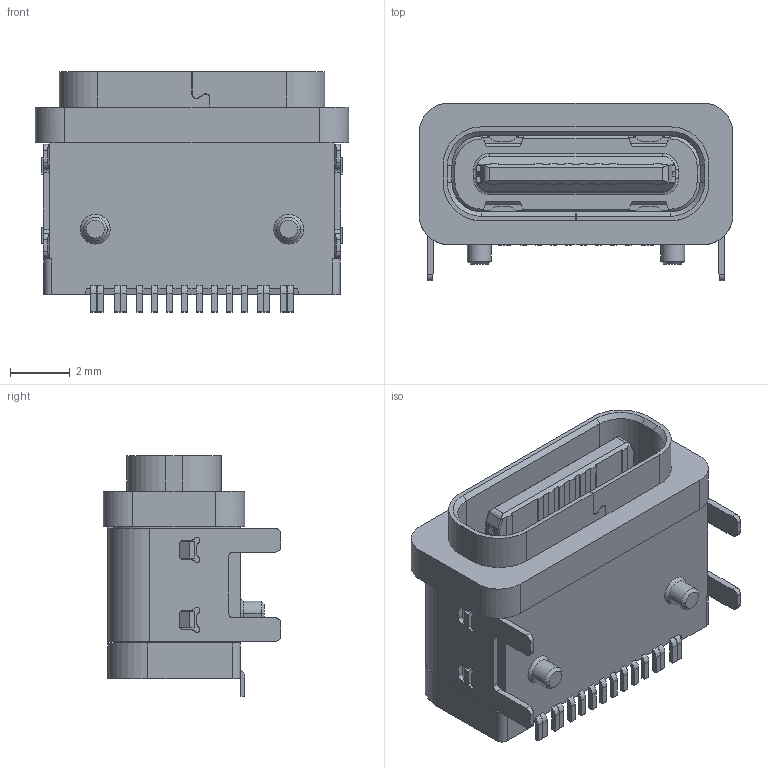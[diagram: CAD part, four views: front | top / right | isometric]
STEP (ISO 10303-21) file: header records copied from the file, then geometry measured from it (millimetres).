
FILE_DESCRIPTION((''),'2;1');
FILE_NAME('ATCF-16-023_TYPE_C0001','2023-09-20T15:20:19',('Administrator'),(''),'CREO PARAMETRIC BY PTC INC, 2019080','CREO PARAMETRIC BY PTC INC, 2019080','');
FILE_SCHEMA(('CONFIG_CONTROL_DESIGN'));
Length unit declared in the file: millimetre
Products named in the file (1): ATCF-16-023_TYPE_C0001
Bounding box: 10.54 x 5.97 x 8.1 mm (x, y, z)
Volume: 238.9 mm3; surface area: 509.8 mm2
Topology: 1 solids, 4 shells, 691 faces, 1969 edges, 1298 vertices
Faces by surface type: plane 453, cylinder 198, cone 20, torus 20
Entity records: 22583 total; most frequent: CARTESIAN_POINT 4156, ORIENTED_EDGE 3938, DIRECTION 3797, EDGE_CURVE 1969, VECTOR 1435, LINE 1435, VERTEX_POINT 1298, AXIS2_PLACEMENT_3D 1181
